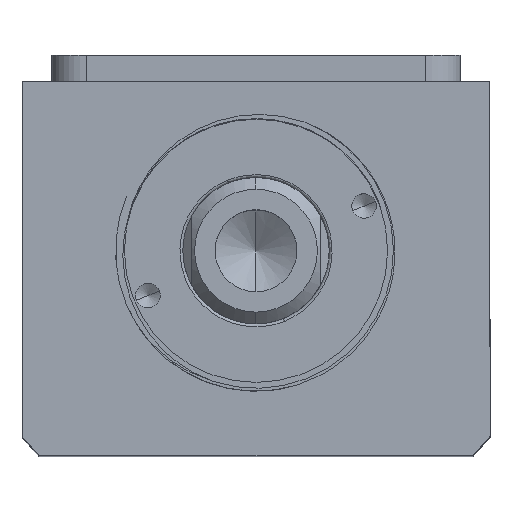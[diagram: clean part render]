
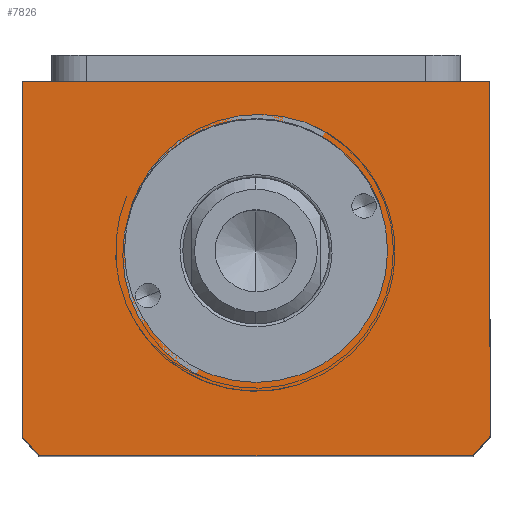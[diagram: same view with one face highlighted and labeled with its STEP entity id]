
A CAD part, top view. The second image highlights one B-rep face of the part: STEP entity #7826.
In plain terms, the highlighted planar face has unit normal (0, 0, 1).
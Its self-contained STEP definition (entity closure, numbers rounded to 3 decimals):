
#300 = AXIS2_PLACEMENT_3D ( 'NONE', #946, #1781, #7451 ) ;
#304 = VERTEX_POINT ( 'NONE', #2703 ) ;
#334 = DIRECTION ( 'NONE',  ( 1., 0., 0. ) ) ;
#461 = VECTOR ( 'NONE', #7966, 1000. ) ;
#483 = ORIENTED_EDGE ( 'NONE', *, *, #10579, .T. ) ;
#636 = DIRECTION ( 'NONE',  ( 1., 0., 0. ) ) ;
#946 = CARTESIAN_POINT ( 'NONE',  ( 0., 0., 125. ) ) ;
#1092 = AXIS2_PLACEMENT_3D ( 'NONE', #4878, #4909, #5833 ) ;
#1382 = VECTOR ( 'NONE', #2512, 1000. ) ;
#1511 = CARTESIAN_POINT ( 'NONE',  ( -40., -11.507, 125. ) ) ;
#1781 = DIRECTION ( 'NONE',  ( 0., 0., 1. ) ) ;
#1826 = ORIENTED_EDGE ( 'NONE', *, *, #10310, .T. ) ;
#1885 = VERTEX_POINT ( 'NONE', #6271 ) ;
#2170 = VERTEX_POINT ( 'NONE', #5175 ) ;
#2291 = CARTESIAN_POINT ( 'NONE',  ( -40., -11.507, 125. ) ) ;
#2331 = CARTESIAN_POINT ( 'NONE',  ( -22.5, -40.507, 125. ) ) ;
#2427 = ORIENTED_EDGE ( 'NONE', *, *, #7671, .F. ) ;
#2512 = DIRECTION ( 'NONE',  ( 0., 1., 0. ) ) ;
#2520 = DIRECTION ( 'NONE',  ( 0., 0., 1. ) ) ;
#2590 = EDGE_LOOP ( 'NONE', ( #2427, #4099 ) ) ;
#2592 = LINE ( 'NONE', #9588, #6675 ) ;
#2671 = LINE ( 'NONE', #2291, #461 ) ;
#2703 = CARTESIAN_POINT ( 'NONE',  ( 40., -72.145, 125. ) ) ;
#3053 = VERTEX_POINT ( 'NONE', #5876 ) ;
#3214 = EDGE_CURVE ( 'NONE', #3665, #1885, #6597, .T. ) ;
#3532 = CIRCLE ( 'NONE', #4190, 51. ) ;
#3563 = EDGE_CURVE ( 'NONE', #3053, #304, #3532, .T. ) ;
#3643 = VERTEX_POINT ( 'NONE', #1511 ) ;
#3665 = VERTEX_POINT ( 'NONE', #2331 ) ;
#3944 = CARTESIAN_POINT ( 'NONE',  ( 0., -40.507, 125. ) ) ;
#4099 = ORIENTED_EDGE ( 'NONE', *, *, #3214, .F. ) ;
#4190 = AXIS2_PLACEMENT_3D ( 'NONE', #3944, #9585, #4752 ) ;
#4358 = ORIENTED_EDGE ( 'NONE', *, *, #8560, .T. ) ;
#4752 = DIRECTION ( 'NONE',  ( 1., 0., 0. ) ) ;
#4761 = VECTOR ( 'NONE', #5075, 1000. ) ;
#4878 = CARTESIAN_POINT ( 'NONE',  ( 0., -40.507, 125. ) ) ;
#4909 = DIRECTION ( 'NONE',  ( 0., 0., 1. ) ) ;
#4968 = CARTESIAN_POINT ( 'NONE',  ( 40., -11.507, 125. ) ) ;
#5070 = VERTEX_POINT ( 'NONE', #5196 ) ;
#5075 = DIRECTION ( 'NONE',  ( -1., 0., 0. ) ) ;
#5175 = CARTESIAN_POINT ( 'NONE',  ( -37.094, -75.507, 125. ) ) ;
#5196 = CARTESIAN_POINT ( 'NONE',  ( 40., -11.507, 125. ) ) ;
#5237 = DIRECTION ( 'NONE',  ( 0., 0., 1. ) ) ;
#5348 = ORIENTED_EDGE ( 'NONE', *, *, #3563, .T. ) ;
#5529 = LINE ( 'NONE', #5855, #4761 ) ;
#5833 = DIRECTION ( 'NONE',  ( 1., 0., 0. ) ) ;
#5855 = CARTESIAN_POINT ( 'NONE',  ( -40., -11.507, 125. ) ) ;
#5876 = CARTESIAN_POINT ( 'NONE',  ( 37.094, -75.507, 125. ) ) ;
#6271 = CARTESIAN_POINT ( 'NONE',  ( 22.5, -40.507, 125. ) ) ;
#6438 = ORIENTED_EDGE ( 'NONE', *, *, #7425, .T. ) ;
#6597 = CIRCLE ( 'NONE', #1092, 22.5 ) ;
#6625 = FACE_BOUND ( 'NONE', #2590, .T. ) ;
#6675 = VECTOR ( 'NONE', #636, 1000. ) ;
#6867 = CIRCLE ( 'NONE', #8152, 22.5 ) ;
#7137 = EDGE_LOOP ( 'NONE', ( #9802, #4358, #1826, #5348, #6438, #483 ) ) ;
#7375 = CARTESIAN_POINT ( 'NONE',  ( 0., -40.507, 125. ) ) ;
#7425 = EDGE_CURVE ( 'NONE', #304, #5070, #7616, .T. ) ;
#7451 = DIRECTION ( 'NONE',  ( 1., 0., 0. ) ) ;
#7616 = LINE ( 'NONE', #4968, #1382 ) ;
#7671 = EDGE_CURVE ( 'NONE', #1885, #3665, #6867, .T. ) ;
#7826 = ADVANCED_FACE ( 'NONE', ( #6625, #8494 ), #9827, .T. ) ;
#7966 = DIRECTION ( 'NONE',  ( 0., -1., 0. ) ) ;
#8152 = AXIS2_PLACEMENT_3D ( 'NONE', #7375, #2520, #8192 ) ;
#8192 = DIRECTION ( 'NONE',  ( 1., 0., 0. ) ) ;
#8278 = EDGE_CURVE ( 'NONE', #3643, #8791, #2671, .T. ) ;
#8494 = FACE_OUTER_BOUND ( 'NONE', #7137, .T. ) ;
#8551 = CARTESIAN_POINT ( 'NONE',  ( -40., -72.145, 125. ) ) ;
#8560 = EDGE_CURVE ( 'NONE', #8791, #2170, #9072, .T. ) ;
#8791 = VERTEX_POINT ( 'NONE', #8551 ) ;
#9072 = CIRCLE ( 'NONE', #10119, 51. ) ;
#9585 = DIRECTION ( 'NONE',  ( 0., 0., 1. ) ) ;
#9588 = CARTESIAN_POINT ( 'NONE',  ( -40., -75.507, 125. ) ) ;
#9802 = ORIENTED_EDGE ( 'NONE', *, *, #8278, .T. ) ;
#9827 = PLANE ( 'NONE',  #300 ) ;
#10090 = CARTESIAN_POINT ( 'NONE',  ( 0., -40.507, 125. ) ) ;
#10119 = AXIS2_PLACEMENT_3D ( 'NONE', #10090, #5237, #334 ) ;
#10310 = EDGE_CURVE ( 'NONE', #2170, #3053, #2592, .T. ) ;
#10579 = EDGE_CURVE ( 'NONE', #5070, #3643, #5529, .T. ) ;
